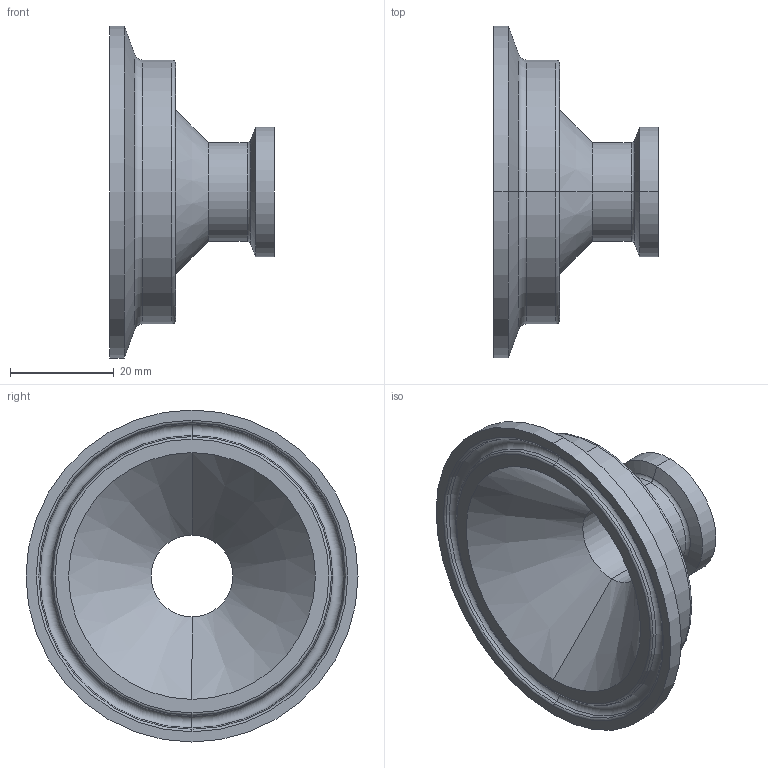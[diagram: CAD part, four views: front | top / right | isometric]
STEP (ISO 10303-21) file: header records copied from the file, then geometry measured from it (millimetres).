
FILE_DESCRIPTION (( 'STEP AP214' ), '1' );
FILE_NAME ('TEG31I6L 2.0X.75 REV1.STEP', '2025-06-26T15:41:37', ( '' ), ( '' ), 'SwSTEP 2.0', 'SolidWorks 2022', '' );
FILE_SCHEMA (( 'AUTOMOTIVE_DESIGN' ));
Length unit declared in the file: inch
Products named in the file (1): TEG31I6L 2.0X.75 REV1
Bounding box: 31.75 x 63.91 x 63.91 mm (x, y, z)
Volume: 20733.4 mm3; surface area: 10983.8 mm2
Topology: 1 solids, 1 shells, 49 faces, 98 edges, 54 vertices
Faces by surface type: torus 18, cone 14, cylinder 12, plane 5
Entity records: 1316 total; most frequent: DIRECTION 270, CARTESIAN_POINT 202, ORIENTED_EDGE 196, AXIS2_PLACEMENT_3D 122, EDGE_CURVE 98, CIRCLE 72, EDGE_LOOP 54, VERTEX_POINT 54
